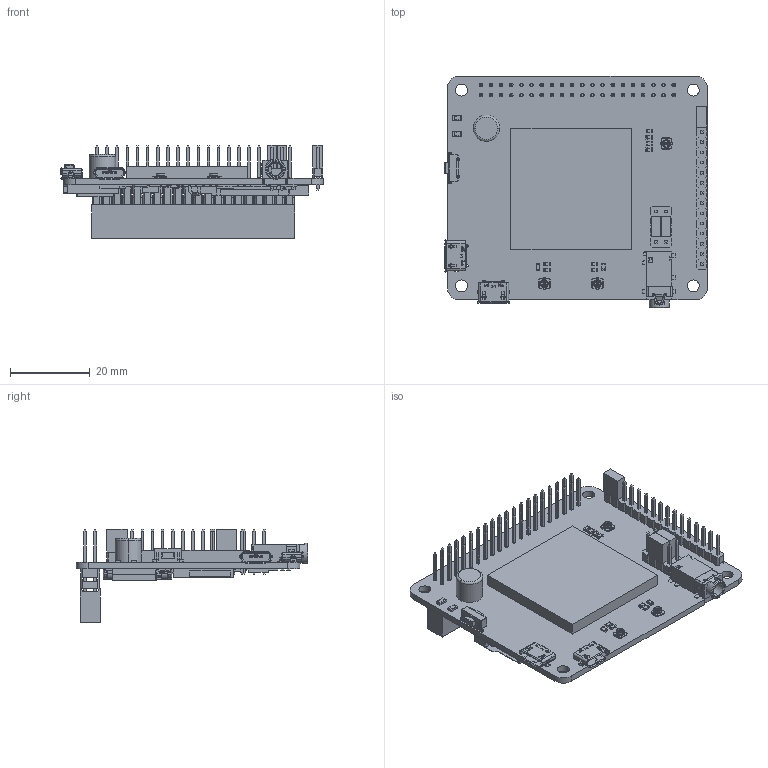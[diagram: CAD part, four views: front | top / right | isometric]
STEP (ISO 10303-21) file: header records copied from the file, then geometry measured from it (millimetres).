
FILE_DESCRIPTION((''),'2;1');
FILE_NAME('SIM7600X_4G_HAT-PCB_ASM','2025-07-24T20:03:38',('ag'),(''),'CREO PARAMETRIC BY PTC INC, 2021063','CREO PARAMETRIC BY PTC INC, 2021063','');
FILE_SCHEMA(('CONFIG_CONTROL_DESIGN','SHAPE_APPEARANCE_LAYERS_GROUPS'));
Products named in the file (195): BOARD; EXTRUDED-13214; 757908880_ASM; EXTRUDED-13591; 757909008_ASM; C11_ASM; EXTRUDED-14010; _1904013632_ASM; EXTRUDED-14402; _1904013760_ASM; EXTRUDED-14852; _1904013888_ASM; U1_ASM; EXTRUDED-15783; _1904013376_ASM; TF1_ASM; EXTRUDED-17026; 757908752_ASM; EXTRUDED-17403; 757908624_ASM; C66_ASM; AVX_INTERCONNECT-9162-300_00-_1; AVX_INTERCONNECT-9162-300_00-_2; AVX_INTERCONNECT-9162-300_00-91_ASM; AVX_INTERCONNECT-9162-300_ASM; SIM_CARD1_ASM; EXTRUDED-87997; _1904014016_ASM; EXTRUDED-89305; _1904013248_ASM; U7_ASM; EXTRUDED-89815; 757912336_ASM; EXTRUDED-90207; 1177788208_ASM; U4_ASM; EXTRUDED-90610; _1904015424_ASM; EXTRUDED-90982; _1904012736_ASM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
Assembly tree (535 placements, depth 5):
  SIM7600X_4G_HAT-PCB_ASM
    BOARD
    C11_ASM
      757908880_ASM  x2
        EXTRUDED-13214
      757909008_ASM
        EXTRUDED-13591
    U1_ASM
      _1904013632_ASM  x5
        EXTRUDED-14010
      _1904013760_ASM
        EXTRUDED-14402
      _1904013888_ASM
        EXTRUDED-14852
    TF1_ASM
      _1904013376_ASM
        EXTRUDED-15783
    C66_ASM
      757908752_ASM  x2
        EXTRUDED-17026
      757908624_ASM
        EXTRUDED-17403
    SIM_CARD1_ASM
      AVX_INTERCONNECT-9162-300_ASM
        AVX_INTERCONNECT-9162-300_00-91_ASM
          AVX_INTERCONNECT-9162-300_00-_1
          AVX_INTERCONNECT-9162-300_00-_2
    U7_ASM
      _1904014016_ASM
        EXTRUDED-87997
      _1904013248_ASM  x20
        EXTRUDED-89305
    U4_ASM
      757912336_ASM  x5
        EXTRUDED-89815
      1177788208_ASM
        EXTRUDED-90207
    C65_ASM
      _1904015424_ASM
        EXTRUDED-90610
      _1904012736_ASM  x2
        EXTRUDED-90982
    C49_ASM
      _1904015424_ASM
        EXTRUDED-90610
      _1904012736_ASM  x2
        EXTRUDED-90982
    C13_ASM
      757908880_ASM  x2
        EXTRUDED-13214
      757909008_ASM
        EXTRUDED-13591
    C8_ASM
      757908880_ASM  x2
        EXTRUDED-13214
      757909008_ASM
        EXTRUDED-13591
    C7_ASM
      757908880_ASM  x2
        EXTRUDED-13214
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Bounding box: 65.7 x 58.02 x 23.4 mm (x, y, z)
Volume: 13785.9 mm3; surface area: 24031 mm2
Topology: 385 solids, 389 shells, 7518 faces, 18865 edges, 12202 vertices
Faces by surface type: plane 6436, cylinder 917, extrusion 65, sphere 50, cone 26, bspline 22, torus 2
Entity records: 210883 total; most frequent: CARTESIAN_POINT 32432, DIRECTION 26101, ORIENTED_EDGE 26006, EDGE_CURVE 13007, PRESENTATION_STYLE_ASSIGNMENT 12862, STYLED_ITEM 11913, VECTOR 11273, CURVE_STYLE 11248
